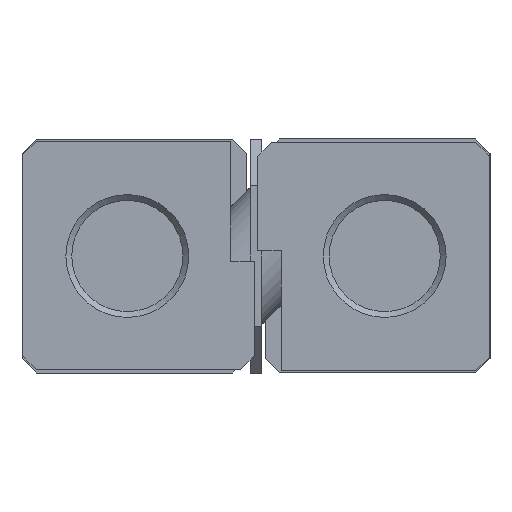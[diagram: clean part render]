
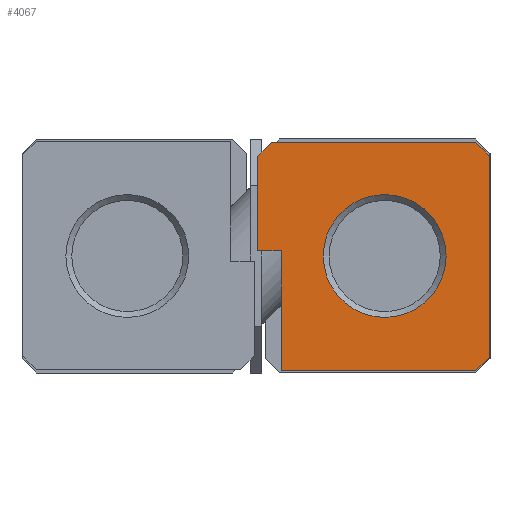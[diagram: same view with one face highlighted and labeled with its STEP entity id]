
A CAD part, left-side view. The second image highlights one B-rep face of the part: STEP entity #4067.
In plain terms, the highlighted planar face has unit normal (-1, 0, 0).
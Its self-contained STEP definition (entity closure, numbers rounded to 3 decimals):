
#159=CIRCLE('',#4329,5.25);
#366=ORIENTED_EDGE('',*,*,#1435,.F.);
#367=ORIENTED_EDGE('',*,*,#1417,.F.);
#368=ORIENTED_EDGE('',*,*,#1434,.F.);
#369=ORIENTED_EDGE('',*,*,#1432,.F.);
#370=ORIENTED_EDGE('',*,*,#1430,.F.);
#371=ORIENTED_EDGE('',*,*,#1428,.F.);
#372=ORIENTED_EDGE('',*,*,#1426,.F.);
#373=ORIENTED_EDGE('',*,*,#1424,.F.);
#374=ORIENTED_EDGE('',*,*,#1422,.F.);
#375=ORIENTED_EDGE('',*,*,#1420,.F.);
#1417=EDGE_CURVE('',#1964,#1965,#2372,.T.);
#1420=EDGE_CURVE('',#1965,#1966,#2375,.T.);
#1422=EDGE_CURVE('',#1966,#1967,#2377,.T.);
#1424=EDGE_CURVE('',#1967,#1968,#2379,.T.);
#1426=EDGE_CURVE('',#1968,#1969,#2381,.T.);
#1428=EDGE_CURVE('',#1969,#1970,#2383,.T.);
#1430=EDGE_CURVE('',#1970,#1971,#2385,.T.);
#1432=EDGE_CURVE('',#1971,#1972,#2387,.T.);
#1434=EDGE_CURVE('',#1972,#1964,#2389,.T.);
#1435=EDGE_CURVE('',#1973,#1973,#159,.T.);
#1964=VERTEX_POINT('',#5965);
#1965=VERTEX_POINT('',#5966);
#1966=VERTEX_POINT('',#5971);
#1967=VERTEX_POINT('',#5975);
#1968=VERTEX_POINT('',#5979);
#1969=VERTEX_POINT('',#5983);
#1970=VERTEX_POINT('',#5987);
#1971=VERTEX_POINT('',#5991);
#1972=VERTEX_POINT('',#5995);
#1973=VERTEX_POINT('',#6001);
#2372=LINE('',#5964,#2791);
#2375=LINE('',#5970,#2794);
#2377=LINE('',#5974,#2796);
#2379=LINE('',#5978,#2798);
#2381=LINE('',#5982,#2800);
#2383=LINE('',#5986,#2802);
#2385=LINE('',#5990,#2804);
#2387=LINE('',#5994,#2806);
#2389=LINE('',#5998,#2808);
#2791=VECTOR('',#4771,1000.);
#2794=VECTOR('',#4776,1000.);
#2796=VECTOR('',#4780,1000.);
#2798=VECTOR('',#4784,1000.);
#2800=VECTOR('',#4788,1000.);
#2802=VECTOR('',#4792,1000.);
#2804=VECTOR('',#4796,1000.);
#2806=VECTOR('',#4800,1000.);
#2808=VECTOR('',#4804,1000.);
#3185=EDGE_LOOP('',(#366));
#3186=EDGE_LOOP('',(#367,#368,#369,#370,#371,#372,#373,#374,#375));
#3544=FACE_BOUND('',#3185,.T.);
#3545=FACE_BOUND('',#3186,.T.);
#3897=PLANE('',#4328);
#4067=ADVANCED_FACE('',(#3544,#3545),#3897,.F.);
#4328=AXIS2_PLACEMENT_3D('',#5999,#4805,#4806);
#4329=AXIS2_PLACEMENT_3D('',#6000,#4807,#4808);
#4771=DIRECTION('',(0.,-1.,0.));
#4776=DIRECTION('',(0.,-0.707,-0.707));
#4780=DIRECTION('',(0.,0.,-1.));
#4784=DIRECTION('',(0.,0.707,-0.707));
#4788=DIRECTION('',(0.,1.,0.));
#4792=DIRECTION('',(0.,0.,1.));
#4796=DIRECTION('',(0.,1.,0.));
#4800=DIRECTION('',(0.,0.,1.));
#4804=DIRECTION('',(0.,-0.707,0.707));
#4805=DIRECTION('',(1.,0.,0.));
#4806=DIRECTION('',(0.,1.,0.));
#4807=DIRECTION('',(-1.,0.,0.));
#4808=DIRECTION('',(0.,0.,1.));
#5964=CARTESIAN_POINT('',(0.,-1.32,9.7));
#5965=CARTESIAN_POINT('',(0.,-1.32,9.7));
#5966=CARTESIAN_POINT('',(0.,-18.78,9.7));
#5970=CARTESIAN_POINT('',(0.,-18.78,9.7));
#5971=CARTESIAN_POINT('',(0.,-19.95,8.53));
#5974=CARTESIAN_POINT('',(0.,-19.95,8.53));
#5975=CARTESIAN_POINT('',(0.,-19.95,-8.63));
#5978=CARTESIAN_POINT('',(0.,-19.95,-8.63));
#5979=CARTESIAN_POINT('',(0.,-18.78,-9.8));
#5982=CARTESIAN_POINT('',(0.,-18.78,-9.8));
#5983=CARTESIAN_POINT('',(0.,-2.15,-9.8));
#5986=CARTESIAN_POINT('',(0.,-2.15,-9.8));
#5987=CARTESIAN_POINT('',(0.,-2.15,0.45));
#5990=CARTESIAN_POINT('',(0.,-2.15,0.45));
#5991=CARTESIAN_POINT('',(0.,-0.15,0.45));
#5994=CARTESIAN_POINT('',(0.,-0.15,0.45));
#5995=CARTESIAN_POINT('',(0.,-0.15,8.53));
#5998=CARTESIAN_POINT('',(0.,-0.15,8.53));
#5999=CARTESIAN_POINT('',(0.,0.,0.));
#6000=CARTESIAN_POINT('',(0.,-11.,0.));
#6001=CARTESIAN_POINT('',(0.,-11.,5.25));
